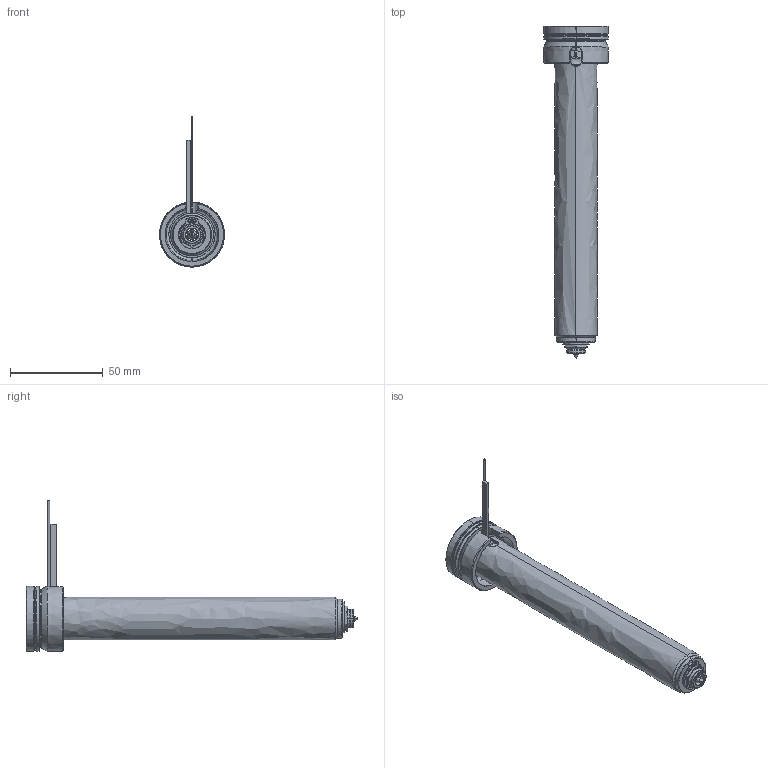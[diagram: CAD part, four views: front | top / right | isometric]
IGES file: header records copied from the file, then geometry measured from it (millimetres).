
Start section: SolidWorks IGES file using analytic representation for surfaces
Global section: file name: C:\Documents and Settings\ws-20\Desktop\TEM\UGEP3054-S-A-1 [Øf-0.70 ØC-7.0].IGS; native system: SolidWorks 2012; preprocessor: SolidWorks 2012; author: ws-20; date: 120402.143755; units: millimetre
Bounding box: 35 x 178.8 x 80.9 mm (x, y, z)
Surface area: 26579.4 mm2 (no closed solid volume)
Topology: 0 solids, 0 shells, 135 faces, 2051 edges, 2051 vertices
Faces by surface type: revolution 85, bspline 50
